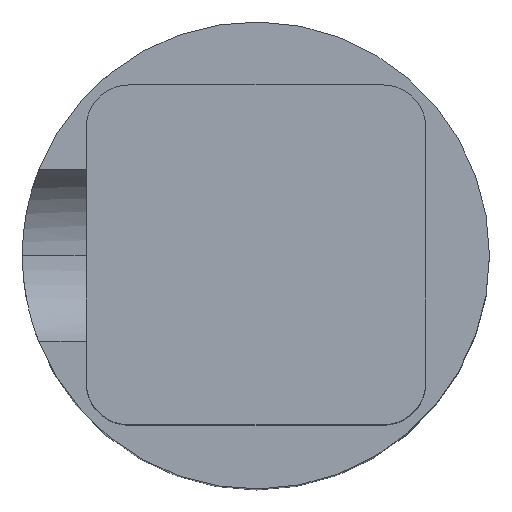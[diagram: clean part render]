
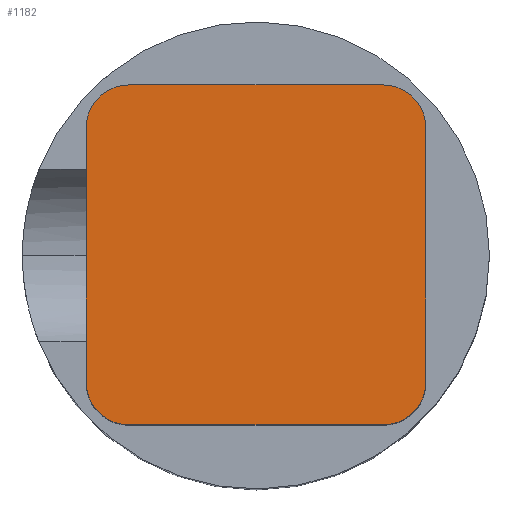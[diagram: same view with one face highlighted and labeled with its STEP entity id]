
A CAD part, top view. The second image highlights one B-rep face of the part: STEP entity #1182.
In plain terms, the highlighted planar face has unit normal (0, 0, 1).
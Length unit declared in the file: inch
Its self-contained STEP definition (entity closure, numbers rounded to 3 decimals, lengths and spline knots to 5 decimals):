
#7 = CARTESIAN_POINT ( 'NONE',  ( 0.3745, -0.3745, 1. ) ) ;
#11 = CARTESIAN_POINT ( 'NONE',  ( 0.4995, -0.4995, 1. ) ) ;
#20 = EDGE_CURVE ( 'NONE', #1274, #33, #1255, .T. ) ;
#33 = VERTEX_POINT ( 'NONE', #229 ) ;
#37 = DIRECTION ( 'NONE',  ( -1., 0., 0. ) ) ;
#68 = FACE_OUTER_BOUND ( 'NONE', #156, .T. ) ;
#71 = DIRECTION ( 'NONE',  ( -1., 0., 0. ) ) ;
#80 = EDGE_CURVE ( 'NONE', #728, #1324, #974, .T. ) ;
#110 = DIRECTION ( 'NONE',  ( -1., 0., 0. ) ) ;
#156 = EDGE_LOOP ( 'NONE', ( #636, #494, #646, #472, #1029, #439, #453, #846 ) ) ;
#184 = CARTESIAN_POINT ( 'NONE',  ( -0.4995, -0.4995, 1. ) ) ;
#186 = VECTOR ( 'NONE', #1204, 39.37008 ) ;
#193 = AXIS2_PLACEMENT_3D ( 'NONE', #1262, #674, #37 ) ;
#217 = DIRECTION ( 'NONE',  ( -1., 0., 0. ) ) ;
#220 = LINE ( 'NONE', #302, #186 ) ;
#229 = CARTESIAN_POINT ( 'NONE',  ( 0.3745, -0.4995, 1. ) ) ;
#267 = DIRECTION ( 'NONE',  ( -1., 0., 0. ) ) ;
#302 = CARTESIAN_POINT ( 'NONE',  ( -0.4995, 0.4995, 1. ) ) ;
#317 = VECTOR ( 'NONE', #748, 39.37008 ) ;
#332 = VERTEX_POINT ( 'NONE', #384 ) ;
#335 = CARTESIAN_POINT ( 'NONE',  ( 0.3745, 0.3745, 1. ) ) ;
#337 = EDGE_CURVE ( 'NONE', #332, #1274, #1155, .T. ) ;
#384 = CARTESIAN_POINT ( 'NONE',  ( -0.4995, -0.3745, 1. ) ) ;
#407 = DIRECTION ( 'NONE',  ( 0., -1., 0. ) ) ;
#439 = ORIENTED_EDGE ( 'NONE', *, *, #1083, .T. ) ;
#453 = ORIENTED_EDGE ( 'NONE', *, *, #1299, .T. ) ;
#456 = VERTEX_POINT ( 'NONE', #1016 ) ;
#472 = ORIENTED_EDGE ( 'NONE', *, *, #80, .T. ) ;
#494 = ORIENTED_EDGE ( 'NONE', *, *, #826, .T. ) ;
#506 = AXIS2_PLACEMENT_3D ( 'NONE', #7, #740, #110 ) ;
#561 = VECTOR ( 'NONE', #407, 39.37008 ) ;
#586 = CARTESIAN_POINT ( 'NONE',  ( -0.3745, -0.4995, 1. ) ) ;
#596 = DIRECTION ( 'NONE',  ( 0., 0., 1. ) ) ;
#601 = CARTESIAN_POINT ( 'NONE',  ( -0.4995, 0.3745, 1. ) ) ;
#636 = ORIENTED_EDGE ( 'NONE', *, *, #20, .T. ) ;
#646 = ORIENTED_EDGE ( 'NONE', *, *, #902, .T. ) ;
#655 = CARTESIAN_POINT ( 'NONE',  ( -0.3745, -0.3745, 1. ) ) ;
#674 = DIRECTION ( 'NONE',  ( 0., 0., 1. ) ) ;
#693 = VERTEX_POINT ( 'NONE', #601 ) ;
#710 = CARTESIAN_POINT ( 'NONE',  ( 0.3745, 0.4995, 1. ) ) ;
#728 = VERTEX_POINT ( 'NONE', #872 ) ;
#740 = DIRECTION ( 'NONE',  ( 0., 0., 1. ) ) ;
#748 = DIRECTION ( 'NONE',  ( 0., 1., 0. ) ) ;
#771 = LINE ( 'NONE', #184, #561 ) ;
#784 = CARTESIAN_POINT ( 'NONE',  ( 0., 0., 1. ) ) ;
#812 = CARTESIAN_POINT ( 'NONE',  ( 0.4995, -0.3745, 1. ) ) ;
#826 = EDGE_CURVE ( 'NONE', #33, #1285, #1236, .T. ) ;
#846 = ORIENTED_EDGE ( 'NONE', *, *, #337, .T. ) ;
#854 = AXIS2_PLACEMENT_3D ( 'NONE', #335, #948, #217 ) ;
#872 = CARTESIAN_POINT ( 'NONE',  ( 0.4995, 0.3745, 1. ) ) ;
#891 = DIRECTION ( 'NONE',  ( 0., 0., -1. ) ) ;
#902 = EDGE_CURVE ( 'NONE', #1285, #728, #1122, .T. ) ;
#948 = DIRECTION ( 'NONE',  ( 0., 0., 1. ) ) ;
#968 = CIRCLE ( 'NONE', #193, 0.125 ) ;
#974 = CIRCLE ( 'NONE', #854, 0.125 ) ;
#977 = PLANE ( 'NONE',  #1026 ) ;
#1010 = CARTESIAN_POINT ( 'NONE',  ( -0.4995, -0.4995, 1. ) ) ;
#1016 = CARTESIAN_POINT ( 'NONE',  ( -0.3745, 0.4995, 1. ) ) ;
#1026 = AXIS2_PLACEMENT_3D ( 'NONE', #784, #891, #267 ) ;
#1029 = ORIENTED_EDGE ( 'NONE', *, *, #1310, .T. ) ;
#1083 = EDGE_CURVE ( 'NONE', #456, #693, #968, .T. ) ;
#1122 = LINE ( 'NONE', #11, #317 ) ;
#1155 = CIRCLE ( 'NONE', #1294, 0.125 ) ;
#1182 = ADVANCED_FACE ( 'NONE', ( #68 ), #977, .F. ) ;
#1204 = DIRECTION ( 'NONE',  ( -1., 0., 0. ) ) ;
#1228 = DIRECTION ( 'NONE',  ( 1., 0., 0. ) ) ;
#1229 = VECTOR ( 'NONE', #1228, 39.37008 ) ;
#1236 = CIRCLE ( 'NONE', #506, 0.125 ) ;
#1255 = LINE ( 'NONE', #1010, #1229 ) ;
#1262 = CARTESIAN_POINT ( 'NONE',  ( -0.3745, 0.3745, 1. ) ) ;
#1274 = VERTEX_POINT ( 'NONE', #586 ) ;
#1285 = VERTEX_POINT ( 'NONE', #812 ) ;
#1294 = AXIS2_PLACEMENT_3D ( 'NONE', #655, #596, #71 ) ;
#1299 = EDGE_CURVE ( 'NONE', #693, #332, #771, .T. ) ;
#1310 = EDGE_CURVE ( 'NONE', #1324, #456, #220, .T. ) ;
#1324 = VERTEX_POINT ( 'NONE', #710 ) ;
